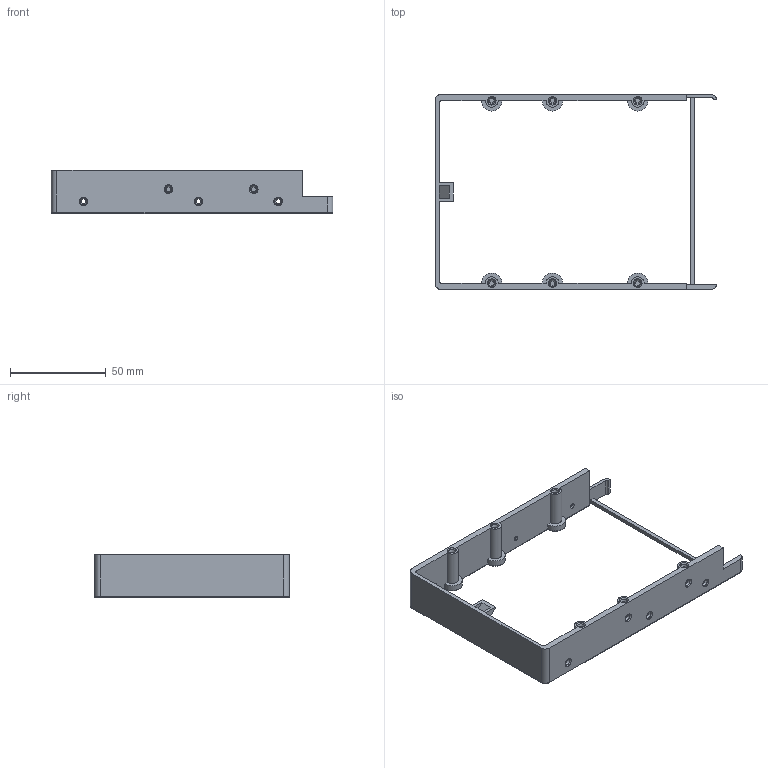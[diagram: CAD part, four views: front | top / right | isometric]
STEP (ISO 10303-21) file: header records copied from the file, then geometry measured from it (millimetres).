
FILE_DESCRIPTION(/* description */ (''),/* implementation_level */ '2;1');
FILE_NAME(/* name */ 'E:/OneDrive/projects/3.5 Hard Drive 50-pin SCSI PCB/123d design/New folder/3.5 Hard Drive Case 50-pin SCSI ED bottom cover.stp',/* time_stamp */ '2022-01-04T23:40:18-05:00',/* author */ (''),/* organization */ (''),/* preprocessor_version */ 'ST-DEVELOPER v15.2',/* originating_system */ 'Autodesk Translator Framework v2.0.0.5431',/* authorisation */ '');
FILE_SCHEMA (('AUTOMOTIVE_DESIGN { 1 0 10303 214 3 1 1 }'));
Length unit declared in the file: centimetre
Products named in the file (1): 3.5 Hard Drive Case 50-pin SCSI ED bottom cover
Bounding box: 147 x 101.6 x 22.5 mm (x, y, z)
Volume: 26250 mm3; surface area: 21700.4 mm2
Topology: 1 solids, 1 shells, 162 faces, 382 edges, 238 vertices
Faces by surface type: plane 53, cylinder 53, cone 44, torus 12
Full cylindrical faces by diameter (mm): 2.5 x6, 2.54 x16
Entity records: 4355 total; most frequent: CARTESIAN_POINT 859, DIRECTION 762, ORIENTED_EDGE 600, AXIS2_PLACEMENT_3D 313, EDGE_CURVE 300, EDGE_LOOP 258, VERTEX_POINT 222, ADVANCED_FACE 162
